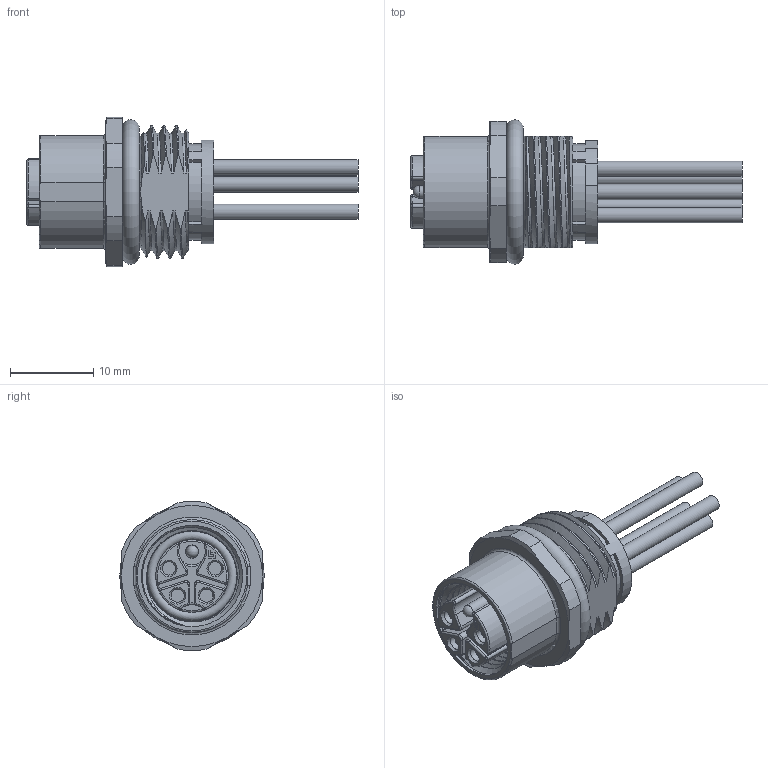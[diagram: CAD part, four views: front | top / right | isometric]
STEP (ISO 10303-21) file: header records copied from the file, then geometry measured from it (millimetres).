
FILE_DESCRIPTION(/* description */ (''),/* implementation_level */ '2;1');
FILE_NAME(/* name */ '09 0702 700 05 001_02-Flanschdose M12 K-Kodierung.stp',/* time_stamp */ '2018-11-14T08:31:08+01:00',/* author */ (''),/* organization */ (''),/* preprocessor_version */ 'ST-DEVELOPER v16',/* originating_system */ 'SIEMENS PLM Software NX 11.0',/* authorisation */ '');
FILE_SCHEMA (('AUTOMOTIVE_DESIGN { 1 0 10303 214 3 1 1 1 }'));
Length unit declared in the file: millimetre
Products named in the file (1): rhen24BCE98768nj
Bounding box: 40 x 17.4 x 17.96 mm (x, y, z)
Volume: 3298.4 mm3; surface area: 3043.3 mm2
Topology: 1 solids, 1 shells, 259 faces, 657 edges, 421 vertices
Faces by surface type: cylinder 86, plane 85, bspline 31, torus 29, cone 27, sphere 1
Full cylindrical faces by diameter (mm): 1.5 x1, 1.6 x5, 1.85 x5, 2.3 x4, 8.75 x1, 10.6 x1, 12 x5, 12.2 x1, 13.3 x1
Entity records: 13854 total; most frequent: CARTESIAN_POINT 8098, ORIENTED_EDGE 1192, DIRECTION 1137, EDGE_CURVE 596, AXIS2_PLACEMENT_3D 459, VERTEX_POINT 397, EDGE_LOOP 307, ADVANCED_FACE 254
